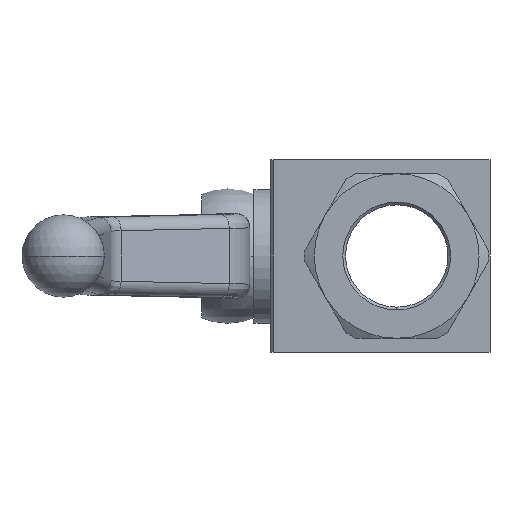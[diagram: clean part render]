
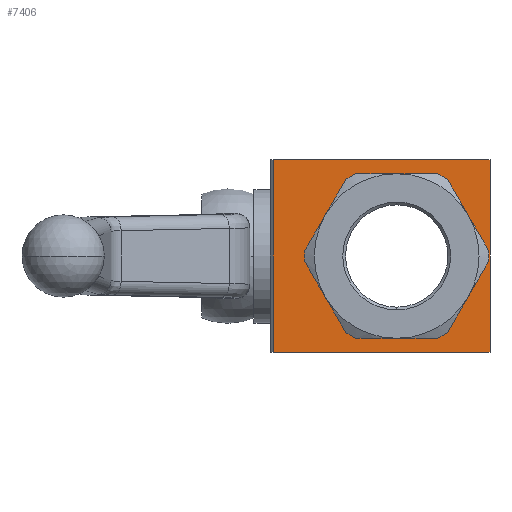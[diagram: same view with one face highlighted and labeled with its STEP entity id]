
A CAD part, left-side view. The second image highlights one B-rep face of the part: STEP entity #7406.
In plain terms, the highlighted planar face has unit normal (-1, 0, 0).
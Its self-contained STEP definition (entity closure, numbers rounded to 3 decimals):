
#47 = CARTESIAN_POINT ( 'NONE',  ( -24., -15.99, -7.5 ) ) ;
#430 = EDGE_CURVE ( 'NONE', #10386, #8266, #4036, .T. ) ;
#448 = AXIS2_PLACEMENT_3D ( 'NONE', #8577, #3108, #9503 ) ;
#699 = VECTOR ( 'NONE', #1171, 1000. ) ;
#771 = CARTESIAN_POINT ( 'NONE',  ( -24., -20., -17.5 ) ) ;
#807 = VECTOR ( 'NONE', #9446, 1000. ) ;
#1037 = DIRECTION ( 'NONE',  ( -1., 0., 0. ) ) ;
#1171 = DIRECTION ( 'NONE',  ( 0., -1., 0. ) ) ;
#1202 = CARTESIAN_POINT ( 'NONE',  ( -24., -3., 0. ) ) ;
#1210 = EDGE_LOOP ( 'NONE', ( #4414, #4068, #1867, #3335, #4356, #6868, #4175 ) ) ;
#1298 = EDGE_CURVE ( 'NONE', #10943, #10529, #3226, .T. ) ;
#1434 = CARTESIAN_POINT ( 'NONE',  ( -24., 19.5, -17.5 ) ) ;
#1590 = VERTEX_POINT ( 'NONE', #11295 ) ;
#1858 = CARTESIAN_POINT ( 'NONE',  ( -24., 9.99, -7.5 ) ) ;
#1867 = ORIENTED_EDGE ( 'NONE', *, *, #2363, .F. ) ;
#1872 = DIRECTION ( 'NONE',  ( -1., 0., 0. ) ) ;
#2131 = DIRECTION ( 'NONE',  ( 0., -1., 0. ) ) ;
#2363 = EDGE_CURVE ( 'NONE', #8692, #9948, #8547, .T. ) ;
#2445 = EDGE_CURVE ( 'NONE', #8266, #10115, #4605, .T. ) ;
#2671 = FACE_BOUND ( 'NONE', #1210, .T. ) ;
#2842 = DIRECTION ( 'NONE',  ( -1., 0., 0. ) ) ;
#2918 = EDGE_CURVE ( 'NONE', #10943, #4669, #11783, .T. ) ;
#2931 = DIRECTION ( 'NONE',  ( -1., 0., 0. ) ) ;
#2972 = AXIS2_PLACEMENT_3D ( 'NONE', #1202, #7589, #2131 ) ;
#3108 = DIRECTION ( 'NONE',  ( -1., 0., 0. ) ) ;
#3128 = AXIS2_PLACEMENT_3D ( 'NONE', #10024, #4542, #10949 ) ;
#3226 = LINE ( 'NONE', #8510, #807 ) ;
#3239 = EDGE_LOOP ( 'NONE', ( #11322, #8114, #7824, #7776 ) ) ;
#3335 = ORIENTED_EDGE ( 'NONE', *, *, #10102, .F. ) ;
#3622 = VERTEX_POINT ( 'NONE', #771 ) ;
#3749 = PLANE ( 'NONE',  #11034 ) ;
#3792 = CARTESIAN_POINT ( 'NONE',  ( -24., 20., 17.5 ) ) ;
#4036 = CIRCLE ( 'NONE', #5425, 15. ) ;
#4068 = ORIENTED_EDGE ( 'NONE', *, *, #6911, .F. ) ;
#4175 = ORIENTED_EDGE ( 'NONE', *, *, #2445, .F. ) ;
#4356 = ORIENTED_EDGE ( 'NONE', *, *, #6580, .F. ) ;
#4414 = ORIENTED_EDGE ( 'NONE', *, *, #430, .F. ) ;
#4419 = CIRCLE ( 'NONE', #3128, 15. ) ;
#4542 = DIRECTION ( 'NONE',  ( -1., 0., 0. ) ) ;
#4557 = DIRECTION ( 'NONE',  ( 0., 0., -1. ) ) ;
#4605 = CIRCLE ( 'NONE', #448, 15. ) ;
#4669 = VERTEX_POINT ( 'NONE', #1434 ) ;
#4726 = DIRECTION ( 'NONE',  ( 0., 1., 0. ) ) ;
#5135 = CIRCLE ( 'NONE', #2972, 15. ) ;
#5350 = EDGE_CURVE ( 'NONE', #4669, #3622, #10125, .T. ) ;
#5425 = AXIS2_PLACEMENT_3D ( 'NONE', #8400, #2931, #9325 ) ;
#5643 = AXIS2_PLACEMENT_3D ( 'NONE', #7315, #1872, #8253 ) ;
#5699 = CARTESIAN_POINT ( 'NONE',  ( -24., 20., -17.5 ) ) ;
#5782 = CIRCLE ( 'NONE', #5643, 15. ) ;
#5909 = CARTESIAN_POINT ( 'NONE',  ( -24., -3., -15. ) ) ;
#6109 = LINE ( 'NONE', #10964, #8568 ) ;
#6223 = AXIS2_PLACEMENT_3D ( 'NONE', #8310, #2842, #9236 ) ;
#6408 = EDGE_CURVE ( 'NONE', #10529, #3622, #6109, .T. ) ;
#6488 = CARTESIAN_POINT ( 'NONE',  ( -24., -3., 0. ) ) ;
#6498 = EDGE_CURVE ( 'NONE', #10115, #10069, #7129, .T. ) ;
#6580 = EDGE_CURVE ( 'NONE', #10069, #1590, #5135, .T. ) ;
#6868 = ORIENTED_EDGE ( 'NONE', *, *, #6498, .F. ) ;
#6897 = VECTOR ( 'NONE', #7708, 1000. ) ;
#6911 = EDGE_CURVE ( 'NONE', #9948, #10386, #4419, .T. ) ;
#7129 = CIRCLE ( 'NONE', #6223, 15. ) ;
#7315 = CARTESIAN_POINT ( 'NONE',  ( -24., -3., 0. ) ) ;
#7406 = ADVANCED_FACE ( 'NONE', ( #9971, #2671 ), #3749, .F. ) ;
#7416 = DIRECTION ( 'NONE',  ( 0., -1., 0. ) ) ;
#7589 = DIRECTION ( 'NONE',  ( -1., 0., 0. ) ) ;
#7603 = CARTESIAN_POINT ( 'NONE',  ( -24., -3., 15. ) ) ;
#7639 = CARTESIAN_POINT ( 'NONE',  ( -24., -20., 17.5 ) ) ;
#7660 = CARTESIAN_POINT ( 'NONE',  ( -24., 19.5, 17.5 ) ) ;
#7708 = DIRECTION ( 'NONE',  ( 0., 0., -1. ) ) ;
#7776 = ORIENTED_EDGE ( 'NONE', *, *, #6408, .F. ) ;
#7824 = ORIENTED_EDGE ( 'NONE', *, *, #5350, .T. ) ;
#8011 = AXIS2_PLACEMENT_3D ( 'NONE', #6488, #1037, #7416 ) ;
#8114 = ORIENTED_EDGE ( 'NONE', *, *, #2918, .T. ) ;
#8253 = DIRECTION ( 'NONE',  ( 0., -1., 0. ) ) ;
#8266 = VERTEX_POINT ( 'NONE', #5909 ) ;
#8310 = CARTESIAN_POINT ( 'NONE',  ( -24., -3., 0. ) ) ;
#8400 = CARTESIAN_POINT ( 'NONE',  ( -24., -3., 0. ) ) ;
#8510 = CARTESIAN_POINT ( 'NONE',  ( -24., 20., 17.5 ) ) ;
#8547 = CIRCLE ( 'NONE', #8011, 15. ) ;
#8568 = VECTOR ( 'NONE', #4557, 1000. ) ;
#8577 = CARTESIAN_POINT ( 'NONE',  ( -24., -3., 0. ) ) ;
#8692 = VERTEX_POINT ( 'NONE', #7603 ) ;
#9144 = CARTESIAN_POINT ( 'NONE',  ( -24., -18., 0. ) ) ;
#9236 = DIRECTION ( 'NONE',  ( 0., -1., 0. ) ) ;
#9325 = DIRECTION ( 'NONE',  ( 0., -1., 0. ) ) ;
#9446 = DIRECTION ( 'NONE',  ( 0., -1., 0. ) ) ;
#9472 = CARTESIAN_POINT ( 'NONE',  ( -24., 19.5, 17.5 ) ) ;
#9503 = DIRECTION ( 'NONE',  ( 0., -1., 0. ) ) ;
#9948 = VERTEX_POINT ( 'NONE', #10563 ) ;
#9971 = FACE_OUTER_BOUND ( 'NONE', #3239, .T. ) ;
#10024 = CARTESIAN_POINT ( 'NONE',  ( -24., -3., 0. ) ) ;
#10069 = VERTEX_POINT ( 'NONE', #9144 ) ;
#10102 = EDGE_CURVE ( 'NONE', #1590, #8692, #5782, .T. ) ;
#10115 = VERTEX_POINT ( 'NONE', #47 ) ;
#10125 = LINE ( 'NONE', #5699, #699 ) ;
#10222 = DIRECTION ( 'NONE',  ( 1., 0., 0. ) ) ;
#10386 = VERTEX_POINT ( 'NONE', #1858 ) ;
#10529 = VERTEX_POINT ( 'NONE', #7639 ) ;
#10563 = CARTESIAN_POINT ( 'NONE',  ( -24., 9.99, 7.5 ) ) ;
#10943 = VERTEX_POINT ( 'NONE', #9472 ) ;
#10949 = DIRECTION ( 'NONE',  ( 0., -1., 0. ) ) ;
#10964 = CARTESIAN_POINT ( 'NONE',  ( -24., -20., 17.5 ) ) ;
#11034 = AXIS2_PLACEMENT_3D ( 'NONE', #3792, #10222, #4726 ) ;
#11295 = CARTESIAN_POINT ( 'NONE',  ( -24., -15.99, 7.5 ) ) ;
#11322 = ORIENTED_EDGE ( 'NONE', *, *, #1298, .F. ) ;
#11783 = LINE ( 'NONE', #7660, #6897 ) ;
